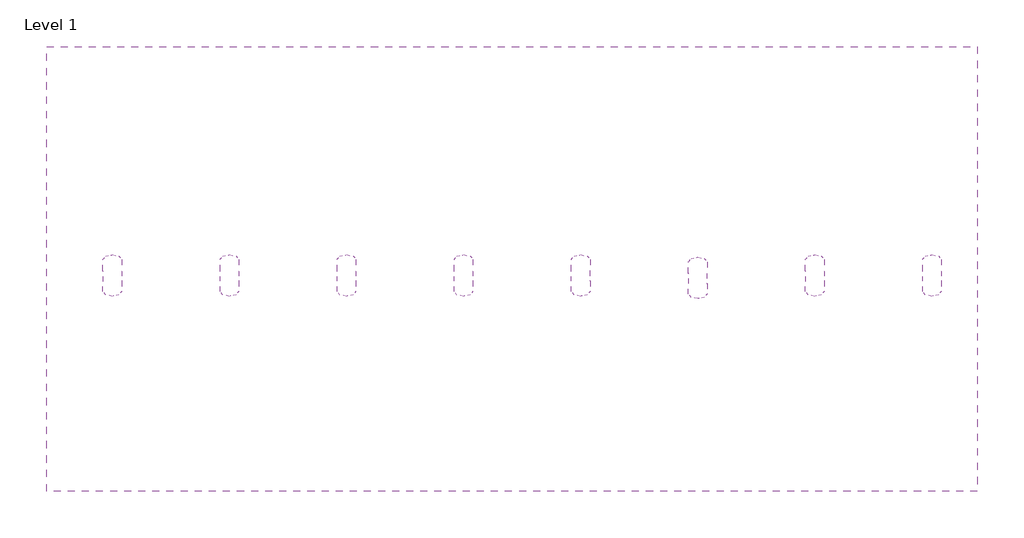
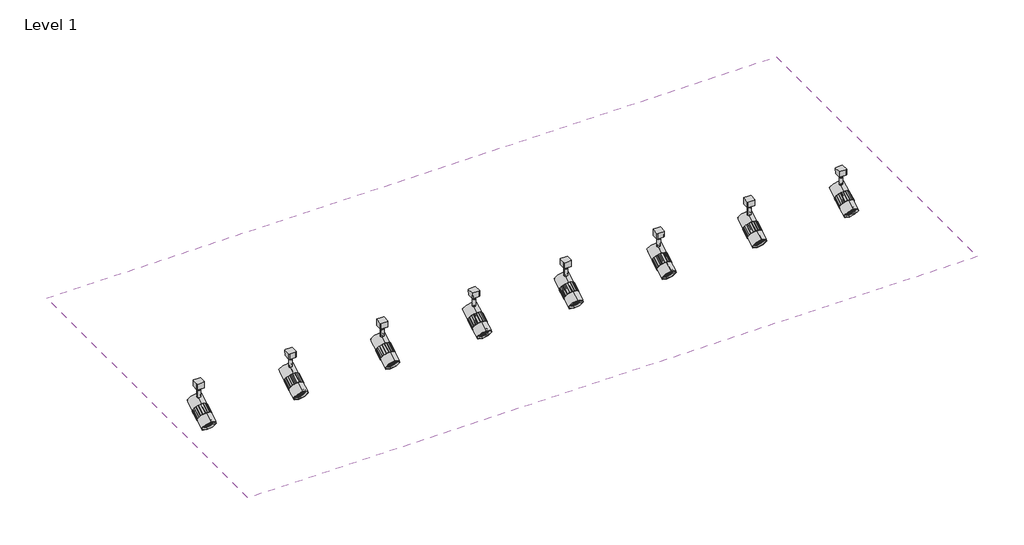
# One storey: 8 light fixtures, 1 covering.
"""IFC4 building model written with IfcOpenShell, lengths in millimetres."""

from ifc_helpers import new_model, si_unit, frame, origin, place, context, project, spatial, polyline, outline, extrude, transform, mapped, element, save
from components import light_fixture_c8fcb1c9, light_fixture_b5696cb0

model = new_model("IFC4")

# Units and contexts
model_context = context("Model", 3, world=origin())
ifc_project = project(units=[si_unit("LENGTHUNIT", "METRE", prefix="MILLI")], contexts=[model_context])

# Site, building, storey
site = spatial("IfcSite", under=ifc_project)
building = spatial("IfcBuilding", under=site)
storey = spatial("IfcBuildingStorey", under=building, Name="Level 1", Elevation=0.0)

# Covering
placement = place(None, origin())
element("IfcCovering", 1, ObjectType="600 x 1200mm grid", at=placement, inside=storey, context=model_context, shape_type="SweptSolid", body=[
    extrude(outline(polyline([(-8104.2845777, 5501.391192), (-8104.2845777, 3824.991192), (-11609.4845777, 3824.991192), (-11609.4845777, 5501.391192), (-8104.2845777, 5501.391192)])), frame((0.0, 0.0, 2600.0), z_axis=(0.0, 0.0, 1.0), x_axis=(1.0, 0.0, 0.0)), (0.0, 0.0, 1.0), 52.0),
])

# Light fixtures
light_fixture_shape = light_fixture_c8fcb1c9(model_context)
light_fixture_2_shape = light_fixture_b5696cb0(model_context)
element("IfcLightFixture", 2, ObjectType="Intense_Lighting-ITLP20-Luminarie : ITLP20L1308-FL", at=placement, inside=storey, context=model_context, shape_type="MappedRepresentation", body=[
    mapped(light_fixture_shape, transform((-11361.6845777, 4663.191192, 2600.0), x_axis=(0.0, -1.0, 0.0), y_axis=(-1.0, 0.0, 0.0), z_axis=(0.0, 0.0, -1.0))),
    mapped(light_fixture_2_shape, transform((-11361.6845777, 4663.191192, 2600.0), x_axis=(0.0, -1.0, 0.0), y_axis=(-1.0, 0.0, 0.0), z_axis=(0.0, 0.0, -1.0))),
])
element("IfcLightFixture", 3, ObjectType="Intense_Lighting-ITLP20-Luminarie : ITLP20L1308-NF", at=placement, inside=storey, context=model_context, shape_type="MappedRepresentation", body=[
    mapped(light_fixture_shape, transform((-10920.8560062, 4663.191192, 2600.0), x_axis=(0.0, -1.0, 0.0), y_axis=(-1.0, 0.0, 0.0), z_axis=(0.0, 0.0, -1.0))),
    mapped(light_fixture_2_shape, transform((-10920.8560062, 4663.191192, 2600.0), x_axis=(0.0, -1.0, 0.0), y_axis=(-1.0, 0.0, 0.0), z_axis=(0.0, 0.0, -1.0))),
])
element("IfcLightFixture", 4, ObjectType="Intense_Lighting-ITLP20-Luminarie : ITLP20L1308-SP", at=placement, inside=storey, context=model_context, shape_type="MappedRepresentation", body=[
    mapped(light_fixture_shape, transform((-10480.0274348, 4663.191192, 2600.0), x_axis=(0.0, -1.0, 0.0), y_axis=(-1.0, 0.0, 0.0), z_axis=(0.0, 0.0, -1.0))),
    mapped(light_fixture_2_shape, transform((-10480.0274348, 4663.191192, 2600.0), x_axis=(0.0, -1.0, 0.0), y_axis=(-1.0, 0.0, 0.0), z_axis=(0.0, 0.0, -1.0))),
])
element("IfcLightFixture", 5, ObjectType="Intense_Lighting-ITLP20-Luminarie : ITLP20L1308-WF", at=placement, inside=storey, context=model_context, shape_type="MappedRepresentation", body=[
    mapped(light_fixture_shape, transform((-10039.1988634, 4663.191192, 2600.0), x_axis=(0.0, -1.0, 0.0), y_axis=(-1.0, 0.0, 0.0), z_axis=(0.0, 0.0, -1.0))),
    mapped(light_fixture_2_shape, transform((-10039.1988634, 4663.191192, 2600.0), x_axis=(0.0, -1.0, 0.0), y_axis=(-1.0, 0.0, 0.0), z_axis=(0.0, 0.0, -1.0))),
])
element("IfcLightFixture", 6, ObjectType="Intense_Lighting-ITLP20-Luminarie : ITLP20L2308-WF", at=placement, inside=storey, context=model_context, shape_type="MappedRepresentation", body=[
    mapped(light_fixture_shape, transform((-8275.8845777, 4663.191192, 2600.0), x_axis=(0.0, -1.0, 0.0), y_axis=(-1.0, 0.0, 0.0), z_axis=(0.0, 0.0, -1.0))),
    mapped(light_fixture_2_shape, transform((-8275.8845777, 4663.191192, 2600.0), x_axis=(0.0, -1.0, 0.0), y_axis=(-1.0, 0.0, 0.0), z_axis=(0.0, 0.0, -1.0))),
])
element("IfcLightFixture", 7, ObjectType="Intense_Lighting-ITLP20-Luminarie : ITLP20L2308-NF", at=placement, inside=storey, context=model_context, shape_type="MappedRepresentation", body=[
    mapped(light_fixture_shape, transform((-9157.5417205, 4654.1211322, 2600.0), x_axis=(0.0, -1.0, 0.0), y_axis=(-1.0, 0.0, 0.0), z_axis=(0.0, 0.0, -1.0))),
    mapped(light_fixture_2_shape, transform((-9157.5417205, 4654.1211322, 2600.0), x_axis=(0.0, -1.0, 0.0), y_axis=(-1.0, 0.0, 0.0), z_axis=(0.0, 0.0, -1.0))),
])
element("IfcLightFixture", 8, ObjectType="Intense_Lighting-ITLP20-Luminarie : ITLP20L2308-FL", at=placement, inside=storey, context=model_context, shape_type="MappedRepresentation", body=[
    mapped(light_fixture_shape, transform((-9598.3702919, 4663.191192, 2600.0), x_axis=(0.0, -1.0, 0.0), y_axis=(-1.0, 0.0, 0.0), z_axis=(0.0, 0.0, -1.0))),
    mapped(light_fixture_2_shape, transform((-9598.3702919, 4663.191192, 2600.0), x_axis=(0.0, -1.0, 0.0), y_axis=(-1.0, 0.0, 0.0), z_axis=(0.0, 0.0, -1.0))),
])
element("IfcLightFixture", 9, ObjectType="Intense_Lighting-ITLP20-Luminarie : ITLP20L2308-SP", at=placement, inside=storey, context=model_context, shape_type="MappedRepresentation", body=[
    mapped(light_fixture_shape, transform((-8716.7131491, 4663.191192, 2600.0), x_axis=(0.0, -1.0, 0.0), y_axis=(-1.0, 0.0, 0.0), z_axis=(0.0, 0.0, -1.0))),
    mapped(light_fixture_2_shape, transform((-8716.7131491, 4663.191192, 2600.0), x_axis=(0.0, -1.0, 0.0), y_axis=(-1.0, 0.0, 0.0), z_axis=(0.0, 0.0, -1.0))),
])

save(model, "model.ifc")
